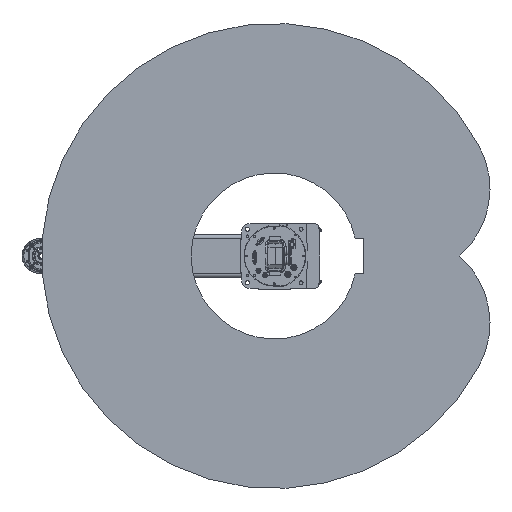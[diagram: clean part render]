
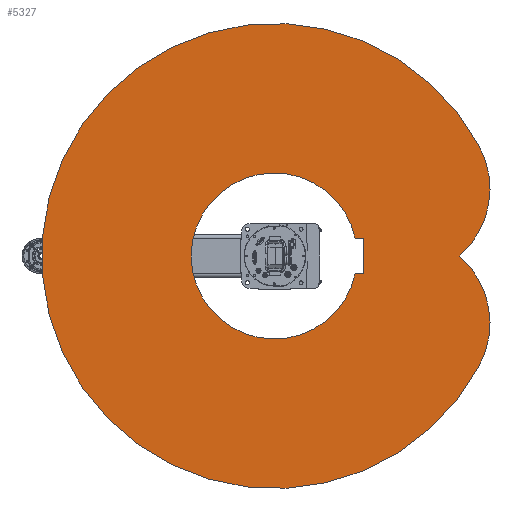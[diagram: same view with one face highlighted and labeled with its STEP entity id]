
A CAD part, front view. The second image highlights one B-rep face of the part: STEP entity #5327.
In plain terms, the highlighted planar face has unit normal (0, -1, 0).
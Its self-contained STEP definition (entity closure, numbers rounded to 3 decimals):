
#5327 = ADVANCED_FACE( '', ( #12549, #12550 ), #12551, .F. );
#12549 = FACE_OUTER_BOUND( '', #22387, .T. );
#12550 = FACE_BOUND( '', #22388, .T. );
#12551 = PLANE( '', #22389 );
#22387 = EDGE_LOOP( '', ( #38034, #38035, #38036 ) );
#22388 = EDGE_LOOP( '', ( #38037, #38038, #38039, #38040 ) );
#22389 = AXIS2_PLACEMENT_3D( '', #38041, #38042, #38043 );
#38034 = ORIENTED_EDGE( '', *, *, #56440, .F. );
#38035 = ORIENTED_EDGE( '', *, *, #56441, .F. );
#38036 = ORIENTED_EDGE( '', *, *, #56442, .F. );
#38037 = ORIENTED_EDGE( '', *, *, #56293, .T. );
#38038 = ORIENTED_EDGE( '', *, *, #55102, .T. );
#38039 = ORIENTED_EDGE( '', *, *, #54091, .T. );
#38040 = ORIENTED_EDGE( '', *, *, #56204, .T. );
#38041 = CARTESIAN_POINT( '', ( 93.894, 0., 176.59 ) );
#38042 = DIRECTION( '', ( 0., 1., 0. ) );
#38043 = DIRECTION( '', ( 0., 0., 1. ) );
#54091 = EDGE_CURVE( '', #64874, #64875, #64876, .T. );
#55102 = EDGE_CURVE( '', #66472, #64874, #66473, .T. );
#56204 = EDGE_CURVE( '', #64875, #68157, #68159, .T. );
#56293 = EDGE_CURVE( '', #68157, #66472, #68292, .T. );
#56440 = EDGE_CURVE( '', #68503, #68504, #68505, .T. );
#56441 = EDGE_CURVE( '', #68506, #68503, #68507, .T. );
#56442 = EDGE_CURVE( '', #68504, #68506, #68508, .T. );
#64874 = VERTEX_POINT( '', #81673 );
#64875 = VERTEX_POINT( '', #81674 );
#64876 = LINE( '', #81675, #81676 );
#66472 = VERTEX_POINT( '', #84445 );
#66473 = LINE( '', #84446, #84447 );
#68157 = VERTEX_POINT( '', #87355 );
#68159 = CIRCLE( '', #87358, 232. );
#68292 = LINE( '', #87552, #87553 );
#68503 = VERTEX_POINT( '', #88020 );
#68504 = VERTEX_POINT( '', #88021 );
#68505 = CIRCLE( '', #88022, 250. );
#68506 = VERTEX_POINT( '', #88023 );
#68507 = CIRCLE( '', #88024, 250. );
#68508 = CIRCLE( '', #88025, 650. );
#81673 = CARTESIAN_POINT( '', ( 50., 0., 250. ) );
#81674 = CARTESIAN_POINT( '', ( 50., 0., 226.548 ) );
#81675 = CARTESIAN_POINT( '', ( 50., 0., 250. ) );
#81676 = VECTOR( '', #98839, 1000. );
#84445 = CARTESIAN_POINT( '', ( -50., 0., 250. ) );
#84446 = CARTESIAN_POINT( '', ( -50., 0., 250. ) );
#84447 = VECTOR( '', #100193, 1000. );
#87355 = CARTESIAN_POINT( '', ( -50., 0., 226.548 ) );
#87358 = AXIS2_PLACEMENT_3D( '', #101554, #101555, #101556 );
#87552 = CARTESIAN_POINT( '', ( -50., 0., 0. ) );
#87553 = VECTOR( '', #101666, 1000. );
#88020 = CARTESIAN_POINT( '', ( 0., 0., 518.211 ) );
#88021 = CARTESIAN_POINT( '', ( 305.157, 0., 573.916 ) );
#88022 = AXIS2_PLACEMENT_3D( '', #101825, #101826, #101827 );
#88023 = CARTESIAN_POINT( '', ( -305.157, 0., 573.916 ) );
#88024 = AXIS2_PLACEMENT_3D( '', #101828, #101829, #101830 );
#88025 = AXIS2_PLACEMENT_3D( '', #101831, #101832, #101833 );
#98839 = DIRECTION( '', ( 0., 0., -1. ) );
#100193 = DIRECTION( '', ( 1., 0., 0. ) );
#101554 = CARTESIAN_POINT( '', ( 0., 0., 0. ) );
#101555 = DIRECTION( '', ( 0., 1., 0. ) );
#101556 = DIRECTION( '', ( 1., 0., 0. ) );
#101666 = DIRECTION( '', ( 0., 0., 1. ) );
#101825 = CARTESIAN_POINT( '', ( 187.789, 0., 353.179 ) );
#101826 = DIRECTION( '', ( 0., 1., 0. ) );
#101827 = DIRECTION( '', ( 1., 0., 0. ) );
#101828 = CARTESIAN_POINT( '', ( -187.789, 0., 353.179 ) );
#101829 = DIRECTION( '', ( 0., 1., 0. ) );
#101830 = DIRECTION( '', ( 1., 0., 0. ) );
#101831 = CARTESIAN_POINT( '', ( 0., 0., 0. ) );
#101832 = DIRECTION( '', ( 0., 1., 0. ) );
#101833 = DIRECTION( '', ( 1., 0., 0. ) );
